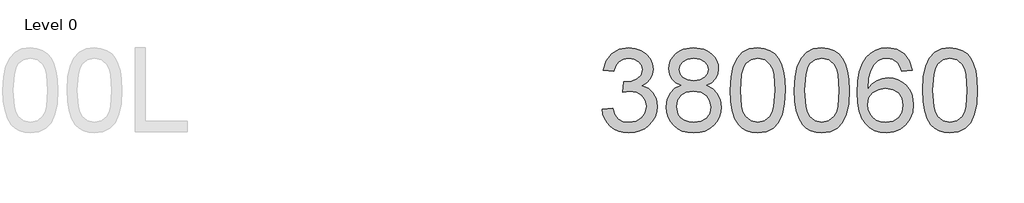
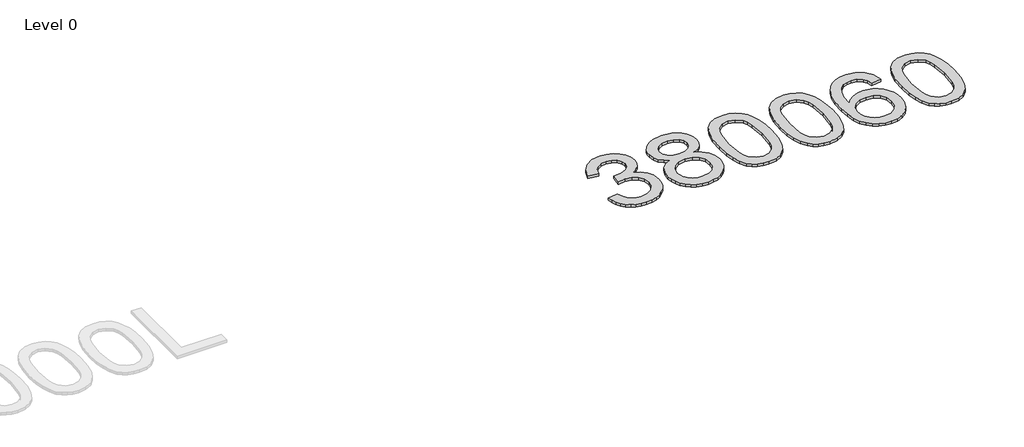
# One storey, part 2 of 37: 1 proxy.
"""IFC4 building model written with IfcOpenShell, lengths in millimetres."""

from ifc_helpers import new_model, si_unit, origin, origin_with_axes, place, context, project, spatial, polyline, outline, extrude, element, save

model = new_model("IFC4")

# Units and contexts
model_context = context("Model", 3, world=origin())
ifc_project = project(units=[si_unit("LENGTHUNIT", "METRE", prefix="MILLI")], contexts=[model_context])

# Site, building, storey
site = spatial("IfcSite", under=ifc_project)
building = spatial("IfcBuilding", under=site)
storey = spatial("IfcBuildingStorey", under=building, Name="Level 0", Elevation=0.0)

# Proxy
placement = place(None, origin())
element("IfcBuildingElementProxy", 1, Name="300mm Arial", ObjectType="300mm Arial", at=placement, inside=storey, context=model_context, shape_type="SweptSolid", body=[
    extrude(outline(polyline([(-6311.2846424, -41620.925676), (-6273.6135261, -41616.2167865), (-6265.1798313, -41639.8899929), (-6252.8281934, -41655.8744656), (-6235.9516068, -41664.979545), (-6213.9430665, -41668.0145714), (-6188.1177504, -41663.8391108), (-6168.1785463, -41651.3127288), (-6155.4314351, -41632.6243235), (-6151.1823981, -41609.9627926), (-6155.3946469, -41588.4508929), (-6168.0313935, -41571.0040893), (-6187.1612572, -41559.4433976), (-6210.8528577, -41555.5898337), (-6237.266785, -41559.710112), (-6233.0729302, -41522.0389957), (-6227.0396655, -41522.4804541), (-6204.4701051, -41519.7765215), (-6184.2917777, -41511.6647235), (-6170.0547444, -41497.942725), (-6165.3090667, -41478.4081911), (-6168.7487634, -41462.1386099), (-6179.0678533, -41448.9408433), (-6194.8132027, -41440.1944488), (-6214.5316777, -41437.278984), (-6234.2869408, -41440.22204), (-6250.4369604, -41449.0512079), (-6262.2275783, -41463.7664877), (-6268.9046365, -41484.3678794), (-6306.5757528, -41479.6589899), (-6295.4841107, -41445.8322404), (-6275.7472417, -41420.5771415), (-6248.7447032, -41404.8501862), (-6215.8560528, -41399.6078677), (-6192.1736494, -41402.1922387), (-6170.4226264, -41409.9453518), (-6152.083709, -41422.1774281), (-6138.637622, -41438.198689), (-6130.3878683, -41456.6571681), (-6127.6379504, -41476.2008991), (-6130.2499126, -41494.4110579), (-6138.0857991, -41510.9289595), (-6151.0352453, -41525.0004458), (-6168.9878867, -41535.8713587), (-6145.4066508, -41545.3995024), (-6127.932256, -41561.6230984), (-6117.1165253, -41583.6592299), (-6113.5112818, -41610.6249802), (-6115.3139036, -41629.7364498), (-6120.7217689, -41647.3396033), (-6129.7348778, -41663.4344406), (-6142.3532302, -41678.0209617), (-6157.7260991, -41690.1242793), (-6175.0027573, -41698.7695062), (-6194.1832048, -41703.9566423), (-6215.2674416, -41705.6856877), (-6234.323729, -41704.2095612), (-6251.6877592, -41699.7811817), (-6267.3595322, -41692.4005492), (-6281.339048, -41682.0676636), (-6293.0606881, -41669.3895304), (-6301.9588338, -41654.9731547), (-6308.0334853, -41638.8185366), (-6311.2846424, -41620.925676)])), origin_with_axes(), (0.0, 0.0, 1.0), 10.0),
    extrude(outline(polyline([(-6025.6610613, -41534.988442), (-6045.8301917, -41525.0556281), (-6059.9844515, -41511.5911471), (-6068.3445698, -41494.8709104), (-6071.1312759, -41475.1708295), (-6069.6137627, -41459.8071577), (-6065.061223, -41445.7218758), (-6057.4736569, -41432.9149839), (-6046.8510643, -41421.3864818), (-6033.7038815, -41411.8583382), (-6018.5425447, -41405.0525213), (-5982.1774095, -41399.6078677), (-5945.5915451, -41405.18128), (-5930.2646615, -41412.1480452), (-5916.9151436, -41421.9015166), (-5906.0994129, -41433.6553464), (-5898.373891, -41446.6231867), (-5893.7385779, -41460.8050376), (-5892.1934735, -41476.2008991), (-5894.9433914, -41495.2663835), (-5903.1931451, -41511.7015117), (-5917.0347052, -41525.0832192), (-5936.5600421, -41534.988442), (-5913.3742794, -41546.9354097), (-5896.4976928, -41564.5293662), (-5886.206194, -41586.9241826), (-5882.7756944, -41613.2737305), (-5884.4771486, -41632.0633034), (-5889.5815113, -41649.2893779), (-5898.0887825, -41664.9519538), (-5909.998962, -41679.0510313), (-5924.6866507, -41690.7036935), (-5941.526449, -41699.0270236), (-5960.518357, -41704.0210217), (-5981.6623747, -41705.6856877), (-6002.8063924, -41704.0141239), (-6021.7983004, -41698.9994325), (-6038.6380987, -41690.6416134), (-6053.3257874, -41678.9406667), (-6065.235967, -41664.7427209), (-6073.7432381, -41648.8939047), (-6078.8476008, -41631.3942181), (-6080.549055, -41612.2436609), (-6076.9805997, -41584.8732405), (-6066.2752336, -41562.3588624), (-6048.9847798, -41545.4730788), (-6025.6610613, -41534.988442)]), holes=[polyline([(-6033.4601596, -41476.2744755), (-6030.1216305, -41492.7188007), (-6020.1060432, -41505.8521879), (-6003.7077033, -41514.4606266), (-5981.2209163, -41517.3301062), (-5959.2583612, -41514.4790207), (-5943.1083416, -41505.9257643), (-5933.1755277, -41493.2338355), (-5929.8645898, -41477.9667327), (-5933.2858923, -41462.1202158), (-5943.5498, -41449.0144197), (-5959.9205488, -41440.2128429), (-5981.6623747, -41437.278984), (-6003.5421564, -41440.1484636), (-6019.885314, -41448.7569023), (-6030.0664482, -41461.3752547), (-6033.4601596, -41476.2744755)]), polyline([(-6042.8779387, -41610.9192858), (-6036.5871566, -41639.2829876), (-6027.8775504, -41651.4506846), (-6014.3302959, -41660.5097787), (-5998.1066999, -41666.1383732), (-5981.3680691, -41668.0145714), (-5955.726694, -41664.069037), (-5936.4864657, -41652.2324338), (-5924.4567245, -41634.3073836), (-5920.4468107, -41612.0965081), (-5924.5854832, -41589.5085536), (-5937.0015005, -41571.1880303), (-5956.6831872, -41559.0479244), (-5982.6188679, -41555.0012225), (-6007.901558, -41558.9927421), (-6026.9486483, -41570.9673011), (-6038.8956161, -41588.9383365), (-6042.8779387, -41610.9192858)])]), origin_with_axes(), (0.0, 0.0, 1.0), 10.0),
    extrude(outline(polyline([(-5849.8134676, -41552.7203541), (-5847.0451556, -41504.4818275), (-5838.7402196, -41466.0105679), (-5824.981433, -41436.717964), (-5805.8515692, -41416.0154047), (-5781.2126726, -41403.709752), (-5750.9267873, -41399.6078677), (-5727.7134334, -41402.0358889), (-5706.9281007, -41409.3199524), (-5689.5456764, -41421.1749497), (-5676.5410479, -41437.3157722), (-5666.7185986, -41457.6044643), (-5658.8827121, -41481.9030701), (-5653.7507583, -41512.7591724), (-5652.040107, -41552.7203541), (-5654.7808279, -41600.6829692), (-5663.0029905, -41639.0622584), (-5676.6790037, -41668.3824534), (-5695.7812763, -41689.1677861), (-5720.4753552, -41701.5562123), (-5750.9267873, -41705.6856877), (-5771.6753319, -41703.892263), (-5790.0694316, -41698.5119888), (-5806.1090866, -41689.5448652), (-5819.7942968, -41676.9908921), (-5832.9276841, -41654.2971715), (-5842.3086749, -41626.0208417), (-5847.9372695, -41592.1619025), (-5849.8134676, -41552.7203541)]), holes=[polyline([(-5812.1423513, -41552.6467777), (-5807.7277674, -41611.9033701), (-5802.2095375, -41632.1713688), (-5794.4840156, -41646.1991691), (-5774.7655406, -41662.5607208), (-5750.9267873, -41668.0145714), (-5727.088034, -41662.5423267), (-5707.3695591, -41646.1255927), (-5699.6440372, -41632.0747997), (-5694.1258073, -41611.8113996), (-5689.7112233, -41552.6467777), (-5693.9786545, -41494.7237576), (-5699.3129434, -41474.5224375), (-5706.7809479, -41460.1612441), (-5726.4626347, -41442.9995491), (-5751.3682457, -41437.278984), (-5774.9494816, -41442.3189674), (-5793.8954044, -41457.4389174), (-5801.8784437, -41473.0739022), (-5807.5806146, -41494.1535405), (-5812.1423513, -41552.6467777)])]), origin_with_axes(), (0.0, 0.0, 1.0), 10.0),
    extrude(outline(polyline([(-5619.0778803, -41552.7203541), (-5616.3095682, -41504.4818275), (-5608.0046322, -41466.0105679), (-5594.2458456, -41436.717964), (-5575.1159818, -41416.0154047), (-5550.4770852, -41403.709752), (-5520.1912, -41399.6078677), (-5496.9778461, -41402.0358889), (-5476.1925133, -41409.3199524), (-5458.8100891, -41421.1749497), (-5445.8054605, -41437.3157722), (-5435.9830113, -41457.6044643), (-5428.1471248, -41481.9030701), (-5423.0151709, -41512.7591724), (-5421.3045197, -41552.7203541), (-5424.0452405, -41600.6829692), (-5432.2674031, -41639.0622584), (-5445.9434163, -41668.3824534), (-5465.0456889, -41689.1677861), (-5489.7397678, -41701.5562123), (-5520.1912, -41705.6856877), (-5540.9397445, -41703.892263), (-5559.3338442, -41698.5119888), (-5575.3734992, -41689.5448652), (-5589.0587095, -41676.9908921), (-5602.1920967, -41654.2971715), (-5611.5730876, -41626.0208417), (-5617.2016821, -41592.1619025), (-5619.0778803, -41552.7203541)]), holes=[polyline([(-5581.406764, -41552.6467777), (-5576.99218, -41611.9033701), (-5571.4739501, -41632.1713688), (-5563.7484282, -41646.1991691), (-5544.0299532, -41662.5607208), (-5520.1912, -41668.0145714), (-5496.3524467, -41662.5423267), (-5476.6339717, -41646.1255927), (-5468.9084498, -41632.0747997), (-5463.3902199, -41611.8113996), (-5458.975636, -41552.6467777), (-5463.2430671, -41494.7237576), (-5468.577356, -41474.5224375), (-5476.0453605, -41460.1612441), (-5495.7270473, -41442.9995491), (-5520.6326584, -41437.278984), (-5544.2138942, -41442.3189674), (-5563.159817, -41457.4389174), (-5571.1428563, -41473.0739022), (-5576.8450272, -41494.1535405), (-5581.406764, -41552.6467777)])]), origin_with_axes(), (0.0, 0.0, 1.0), 10.0),
    extrude(outline(polyline([(-5195.2778218, -41479.6589899), (-5232.9489381, -41484.3678794), (-5239.018991, -41465.6978682), (-5247.2227595, -41452.950757), (-5264.3108782, -41441.1969273), (-5284.9674522, -41437.278984), (-5302.4786352, -41439.5598524), (-5318.9597486, -41446.4024575), (-5333.1140084, -41460.8142347), (-5344.6747001, -41480.6522713), (-5352.4829954, -41508.7124704), (-5355.3800661, -41547.7907354), (-5340.2693132, -41530.1599908), (-5322.160322, -41517.7347764), (-5302.064768, -41510.3679394), (-5280.9943267, -41507.9123271), (-5262.8945325, -41509.5907887), (-5246.19269, -41514.6261735), (-5230.888799, -41523.0184815), (-5216.9828595, -41534.7677128), (-5205.4267664, -41549.1748914), (-5197.1724141, -41565.5410417), (-5192.2198027, -41583.8661635), (-5190.5689323, -41604.150257), (-5193.6775351, -41631.1252043), (-5203.0033437, -41656.131983), (-5217.7738058, -41677.34038), (-5237.2163693, -41692.9201825), (-5260.4481173, -41702.4943114), (-5286.586133, -41705.6856877), (-5309.0430296, -41703.5703662), (-5329.3248238, -41697.2244018), (-5347.4315158, -41686.6477945), (-5363.3631054, -41671.8405442), (-5376.3516391, -41652.1772515), (-5385.6291632, -41627.0325171), (-5391.1956776, -41596.406341), (-5393.0511824, -41560.2987232), (-5390.9910433, -41519.8179082), (-5384.8106257, -41485.2691903), (-5374.5099299, -41456.6525696), (-5360.0889557, -41433.9680461), (-5344.4585694, -41418.9354681), (-5326.3357826, -41408.1979123), (-5305.7205953, -41401.7553789), (-5282.6130075, -41399.6078677), (-5249.5588102, -41404.9237626), (-5223.0897007, -41420.8714471), (-5204.5484481, -41446.2001224), (-5195.2778218, -41479.6589899)]), holes=[polyline([(-5355.3800661, -41603.5616459), (-5353.2003653, -41620.2542914), (-5346.6612628, -41636.1927788), (-5336.5077198, -41649.8963831), (-5323.4846971, -41659.8843793), (-5307.7669389, -41665.9820234), (-5289.529189, -41668.0145714), (-5264.6695632, -41663.8023226), (-5245.1258322, -41651.165576), (-5232.4614945, -41631.2999483), (-5228.2400486, -41605.4010558), (-5232.4063122, -41580.54143), (-5244.905103, -41561.5863102), (-5264.7799278, -41549.5841601), (-5291.0742934, -41545.5834434), (-5315.897131, -41549.5841601), (-5336.6548726, -41561.5863102), (-5350.6987677, -41580.0815775), (-5355.3800661, -41603.5616459)])]), origin_with_axes(), (0.0, 0.0, 1.0), 10.0),
    extrude(outline(polyline([(-5157.6067055, -41552.7203541), (-5154.8383935, -41504.4818275), (-5146.5334575, -41466.0105679), (-5132.7746708, -41436.717964), (-5113.6448071, -41416.0154047), (-5089.0059105, -41403.709752), (-5058.7200252, -41399.6078677), (-5035.5066713, -41402.0358889), (-5014.7213386, -41409.3199524), (-4997.3389143, -41421.1749497), (-4984.3342858, -41437.3157722), (-4974.5118365, -41457.6044643), (-4966.67595, -41481.9030701), (-4961.5439962, -41512.7591724), (-4959.8333449, -41552.7203541), (-4962.5740658, -41600.6829692), (-4970.7962284, -41639.0622584), (-4984.4722415, -41668.3824534), (-5003.5745141, -41689.1677861), (-5028.2685931, -41701.5562123), (-5058.7200252, -41705.6856877), (-5079.4685697, -41703.892263), (-5097.8626695, -41698.5119888), (-5113.9023245, -41689.5448652), (-5127.5875347, -41676.9908921), (-5140.7209219, -41654.2971715), (-5150.1019128, -41626.0208417), (-5155.7305073, -41592.1619025), (-5157.6067055, -41552.7203541)]), holes=[polyline([(-5119.9355892, -41552.6467777), (-5115.5210053, -41611.9033701), (-5110.0027753, -41632.1713688), (-5102.2772534, -41646.1991691), (-5082.5587785, -41662.5607208), (-5058.7200252, -41668.0145714), (-5034.8812719, -41662.5423267), (-5015.162797, -41646.1255927), (-5007.4372751, -41632.0747997), (-5001.9190452, -41611.8113996), (-4997.5044612, -41552.6467777), (-5001.7718924, -41494.7237576), (-5007.1061813, -41474.5224375), (-5014.5741858, -41460.1612441), (-5034.2558725, -41442.9995491), (-5059.1614836, -41437.278984), (-5082.7427195, -41442.3189674), (-5101.6886422, -41457.4389174), (-5109.6716815, -41473.0739022), (-5115.3738525, -41494.1535405), (-5119.9355892, -41552.6467777)])]), origin_with_axes(), (0.0, 0.0, 1.0), 10.0),
])

save(model, "model.ifc")
